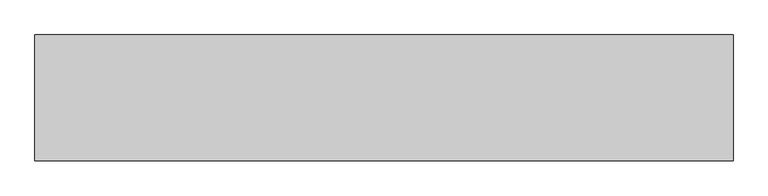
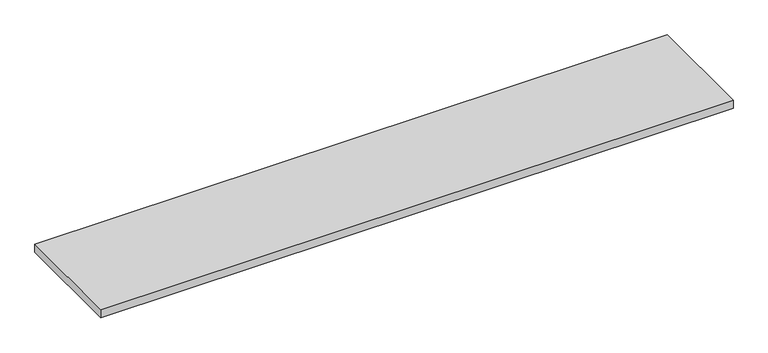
"""IFC4 building model written with IfcOpenShell, lengths in millimetres: furniture geometry, Base Inferior do Painel de TV : Base Inferior do Painel de TV."""

from ifc_helpers import new_model, si_unit, origin, origin_with_axes, place, context, project, spatial, polyline, outline, extrude, source, transform, mapped, element, save


def furniture_4c861502(model_context):
    return source(origin(), model_context, "Body", "SweptSolid", [
        extrude(outline(polyline([(1830.0, 0.0), (0.0, 0.0), (0.0, 330.0), (1830.0, 330.0), (1830.0, 0.0)])), origin_with_axes(), (0.0, 0.0, 1.0), 25.0),
    ])


if __name__ == "__main__":
    model = new_model("IFC4")
    model_context = context("Model", 3, world=origin())
    ifc_project = project(units=[si_unit("LENGTHUNIT", "METRE", prefix="MILLI")], contexts=[model_context])
    site = spatial("IfcSite", under=ifc_project)
    building = spatial("IfcBuilding", under=site)
    placement = place(None, origin())
    furniture_shape = furniture_4c861502(model_context)
    element("IfcFurniture", 1, ObjectType="Base Inferior do Painel de TV : Base Inferior do Painel de TV", at=placement, inside=building, context=model_context, shape_type="MappedRepresentation", body=[
        mapped(furniture_shape, transform((0.0, 0.0, 0.0), x_axis=(1.0, 0.0, 0.0), y_axis=(0.0, 1.0, 0.0), z_axis=(0.0, 0.0, 1.0))),
    ])
    save(model, "model.ifc")
